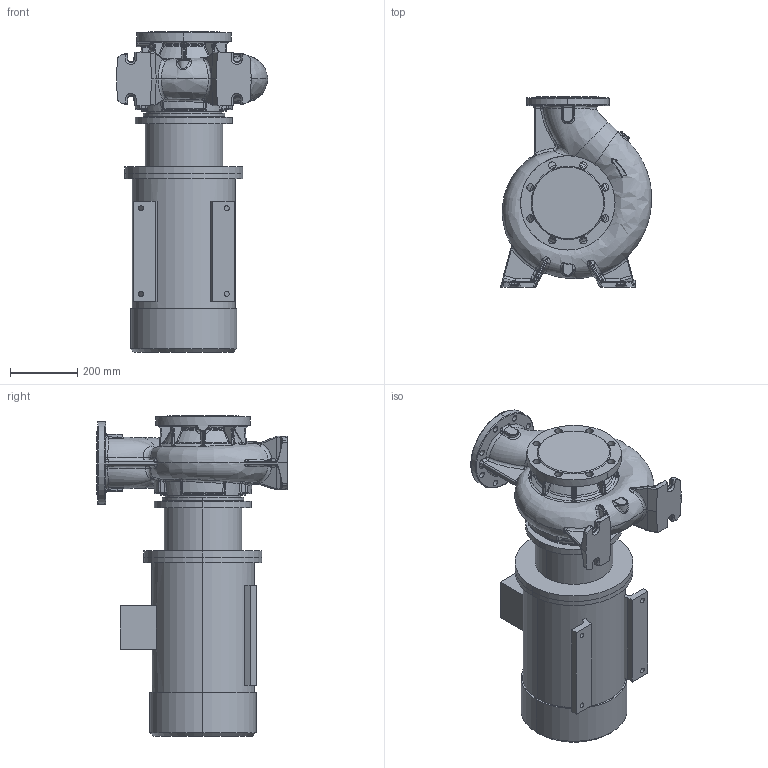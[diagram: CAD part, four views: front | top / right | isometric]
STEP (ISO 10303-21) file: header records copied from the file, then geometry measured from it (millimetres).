
FILE_DESCRIPTION (( 'STEP AP214' ), '1' );
FILE_NAME ('KRM 150-125-200-4-15.STEP', '2026-04-20T07:28:05', ( '' ), ( '' ), 'SwSTEP 2.0', 'SolidWorks 2016', '' );
FILE_SCHEMA (( 'AUTOMOTIVE_DESIGN' ));
Length unit declared in the file: millimetre
Products named in the file (1): KRM 150-125-200-4-15
Bounding box: 448.52 x 565 x 950.5 mm (x, y, z)
Volume: 77920104.4 mm3; surface area: 2243738.5 mm2
Topology: 4 solids, 4 shells, 1150 faces, 2793 edges, 1653 vertices
Faces by surface type: bspline 499, cylinder 265, plane 175, torus 93, cone 67, sphere 51
Entity records: 77583 total; most frequent: CARTESIAN_POINT 41682, ORIENTED_EDGE 5550, DIRECTION 4029, EDGE_CURVE 2775, AXIS2_PLACEMENT_3D 1739, VERTEX_POINT 1653, EDGE_LOOP 1210, UNCERTAINTY_MEASURE_WITH_UNIT 1156
